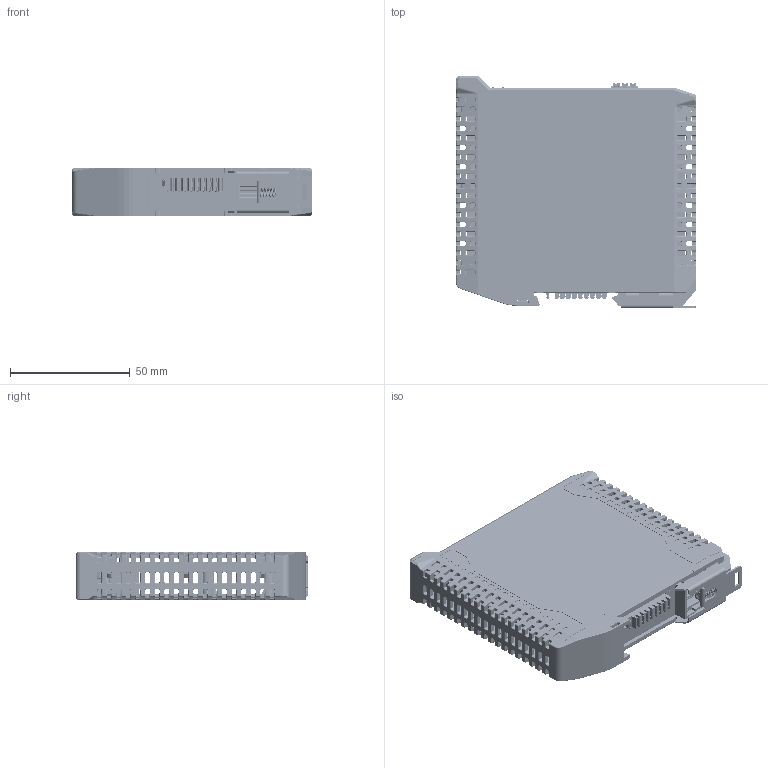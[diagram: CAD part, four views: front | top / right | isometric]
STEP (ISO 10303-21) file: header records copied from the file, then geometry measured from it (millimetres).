
FILE_DESCRIPTION((''),'2;1');
FILE_NAME('DAUDIN_GF2-C0012T','2022-06-30T',('Rex.Song'),(''),'CREO PARAMETRIC BY PTC INC, 2015480','CREO PARAMETRIC BY PTC INC, 2015480','');
FILE_SCHEMA(('CONFIG_CONTROL_DESIGN'));
Products named in the file (1): DAUDIN_GF2-C0012T
Bounding box: 100 x 97 x 20 mm (x, y, z)
Volume: 45265.6 mm3; surface area: 74840.3 mm2
Topology: 5 solids, 5 shells, 10204 faces, 27472 edges, 17368 vertices
Faces by surface type: plane 4447, cylinder 3376, extrusion 1052, bspline 655, torus 525, sphere 97, cone 52
Entity records: 451012 total; most frequent: CARTESIAN_POINT 194836, ORIENTED_EDGE 54884, DIRECTION 47118, EDGE_CURVE 27442, VECTOR 17854, VERTEX_POINT 17368, LINE 16802, AXIS2_PLACEMENT_3D 14632
